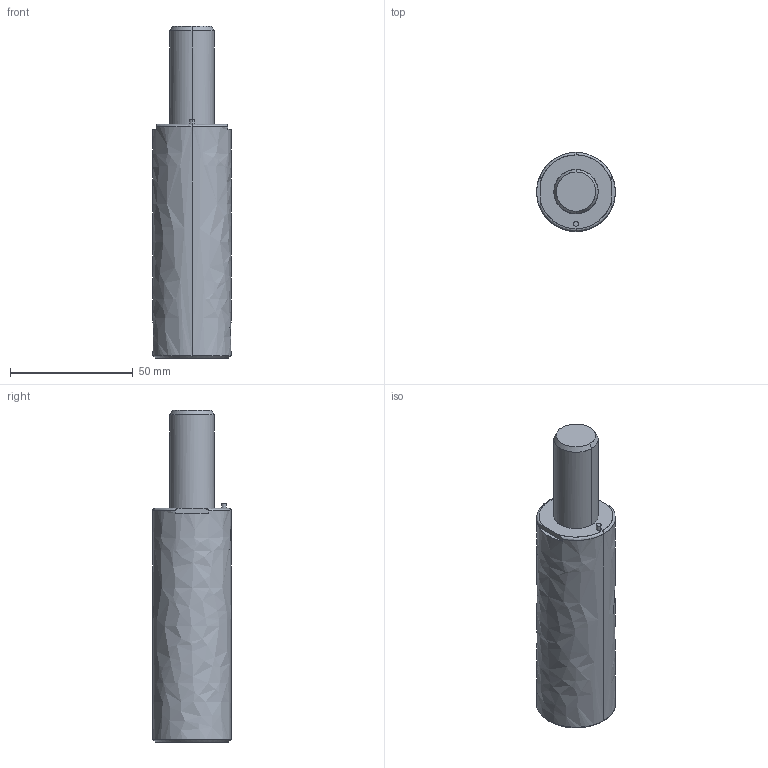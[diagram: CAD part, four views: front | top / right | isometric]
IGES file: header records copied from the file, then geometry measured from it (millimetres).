
Global section: file name: E:\UnigraphicsGraphicData\MISUMI_PRESS-PARTS\IGES\3d_gsx32-38_03994_r00.igs; native system: NX V5.0; preprocessor: UGS NX IGES V5.0; author: MISUMI; date: 20110105.160822; units: millimetre
Bounding box: 32 x 32 x 135 mm (x, y, z)
Surface area: 14176 mm2 (no closed solid volume)
Topology: 0 solids, 0 shells, 45 faces, 308 edges, 304 vertices
Faces by surface type: bspline 45
